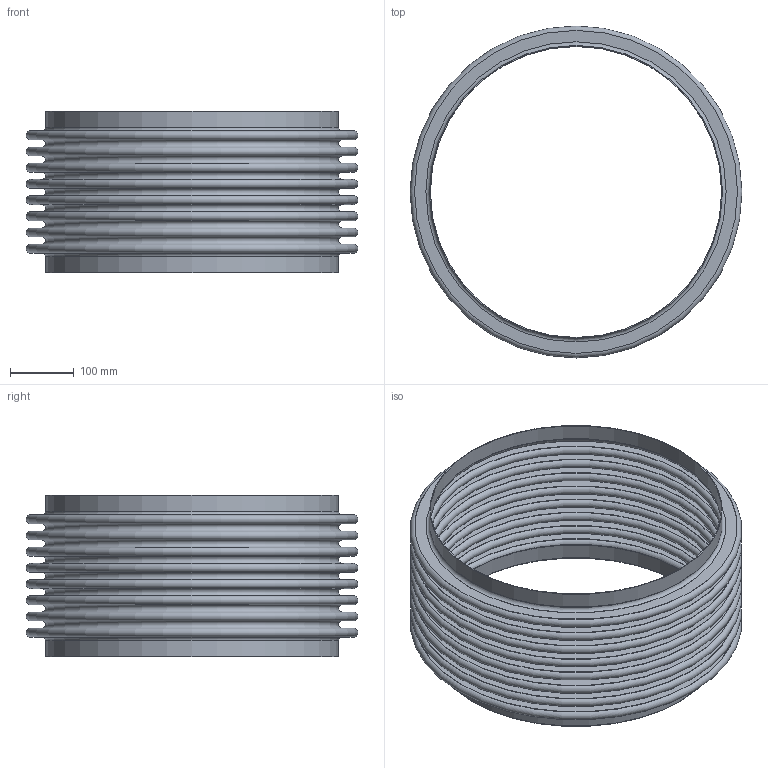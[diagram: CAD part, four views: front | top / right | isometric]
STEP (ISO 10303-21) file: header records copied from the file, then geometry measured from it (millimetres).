
FILE_DESCRIPTION(/* description */ (''),/* implementation_level */ '2;1');
FILE_NAME(/* name */ 'US-18-8-85S.stp',/* time_stamp */ '2026-07-21T11:16:35-05:00',/* author */ ('linda'),/* organization */ (''),/* preprocessor_version */ 'ST-DEVELOPER v20.1',/* originating_system */ 'Autodesk Inventor 2026',/* authorisation */ '');
FILE_SCHEMA (('AUTOMOTIVE_DESIGN { 1 0 10303 214 3 1 1 }'));
Length unit declared in the file: inch
Products named in the file (1): Part3
Bounding box: 520.7 x 520.7 x 254 mm (x, y, z)
Volume: 1221259.2 mm3; surface area: 2013913.1 mm2
Topology: 3 solids, 3 shells, 76 faces, 114 edges, 77 vertices
Faces by surface type: plane 38, torus 34, cylinder 4
Full cylindrical faces by diameter (mm): 457.2 x2, 459.638 x2
Entity records: 1899 total; most frequent: DIRECTION 378, CARTESIAN_POINT 268, ORIENTED_EDGE 228, AXIS2_PLACEMENT_3D 187, EDGE_LOOP 114, EDGE_CURVE 114, CIRCLE 110, STYLED_ITEM 79
